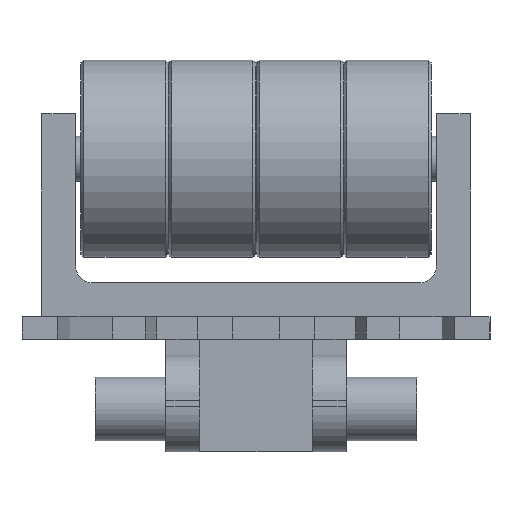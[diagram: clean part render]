
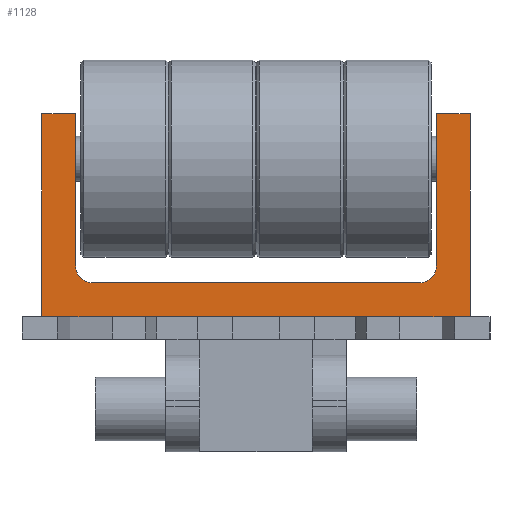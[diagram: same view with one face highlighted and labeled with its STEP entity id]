
A CAD part, front view. The second image highlights one B-rep face of the part: STEP entity #1128.
In plain terms, the highlighted planar face has unit normal (0, -1, 0).
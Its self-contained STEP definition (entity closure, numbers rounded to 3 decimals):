
#97 = DIRECTION ( 'NONE',  ( 0., 0., -1. ) ) ;
#175 = VECTOR ( 'NONE', #97, 1000. ) ;
#237 = CIRCLE ( 'NONE', #395, 3. ) ;
#260 = ORIENTED_EDGE ( 'NONE', *, *, #5171, .F. ) ;
#272 = VERTEX_POINT ( 'NONE', #3338 ) ;
#291 = VECTOR ( 'NONE', #699, 1000. ) ;
#300 = CARTESIAN_POINT ( 'NONE',  ( 221.662, 115.702, 32.1 ) ) ;
#395 = AXIS2_PLACEMENT_3D ( 'NONE', #3149, #4810, #664 ) ;
#406 = CARTESIAN_POINT ( 'NONE',  ( 226.3, 115.702, 32.1 ) ) ;
#409 = EDGE_CURVE ( 'NONE', #770, #688, #3407, .T. ) ;
#429 = LINE ( 'NONE', #3168, #291 ) ;
#444 = ORIENTED_EDGE ( 'NONE', *, *, #5121, .F. ) ;
#465 = EDGE_CURVE ( 'NONE', #951, #1958, #2955, .T. ) ;
#616 = VECTOR ( 'NONE', #4877, 1000. ) ;
#623 = VECTOR ( 'NONE', #3388, 1000. ) ;
#664 = DIRECTION ( 'NONE',  ( 0., 0., 1. ) ) ;
#688 = VERTEX_POINT ( 'NONE', #5198 ) ;
#699 = DIRECTION ( 'NONE',  ( 0., 0., -1. ) ) ;
#702 = DIRECTION ( 'NONE',  ( 0., 0., 1. ) ) ;
#718 = ORIENTED_EDGE ( 'NONE', *, *, #4504, .T. ) ;
#724 = VERTEX_POINT ( 'NONE', #2002 ) ;
#770 = VERTEX_POINT ( 'NONE', #3870 ) ;
#808 = DIRECTION ( 'NONE',  ( 1., 0., 0. ) ) ;
#813 = DIRECTION ( 'NONE',  ( 0., 0., 1. ) ) ;
#925 = LINE ( 'NONE', #3180, #3674 ) ;
#939 = CARTESIAN_POINT ( 'NONE',  ( 226.3, 115.702, 38.1 ) ) ;
#951 = VERTEX_POINT ( 'NONE', #1428 ) ;
#985 = CARTESIAN_POINT ( 'NONE',  ( 154.938, 115.702, 32.1 ) ) ;
#1047 = FACE_OUTER_BOUND ( 'NONE', #5176, .T. ) ;
#1128 = ADVANCED_FACE ( 'NONE', ( #1047 ), #1631, .F. ) ;
#1163 = DIRECTION ( 'NONE',  ( 1., 0., 0. ) ) ;
#1255 = DIRECTION ( 'NONE',  ( 0., 0., 1. ) ) ;
#1340 = EDGE_CURVE ( 'NONE', #272, #2758, #4354, .T. ) ;
#1413 = ORIENTED_EDGE ( 'NONE', *, *, #1340, .T. ) ;
#1428 = CARTESIAN_POINT ( 'NONE',  ( 220.3, 115.702, 68.1 ) ) ;
#1445 = VERTEX_POINT ( 'NONE', #3131 ) ;
#1563 = EDGE_CURVE ( 'NONE', #1958, #770, #4551, .T. ) ;
#1584 = VERTEX_POINT ( 'NONE', #300 ) ;
#1590 = DIRECTION ( 'NONE',  ( 0., 0., -1. ) ) ;
#1631 = PLANE ( 'NONE',  #2108 ) ;
#1787 = ORIENTED_EDGE ( 'NONE', *, *, #2967, .F. ) ;
#1803 = VECTOR ( 'NONE', #4117, 1000. ) ;
#1905 = CARTESIAN_POINT ( 'NONE',  ( 226.3, 115.702, 32.1 ) ) ;
#1920 = LINE ( 'NONE', #4538, #2900 ) ;
#1958 = VERTEX_POINT ( 'NONE', #3008 ) ;
#1995 = EDGE_CURVE ( 'NONE', #3274, #1584, #2737, .T. ) ;
#2000 = CARTESIAN_POINT ( 'NONE',  ( 226.3, 115.702, 68.1 ) ) ;
#2002 = CARTESIAN_POINT ( 'NONE',  ( 226.3, 115.702, 68.1 ) ) ;
#2054 = AXIS2_PLACEMENT_3D ( 'NONE', #4006, #3190, #702 ) ;
#2076 = VECTOR ( 'NONE', #3121, 1000. ) ;
#2108 = AXIS2_PLACEMENT_3D ( 'NONE', #4544, #3307, #813 ) ;
#2249 = VERTEX_POINT ( 'NONE', #4428 ) ;
#2374 = EDGE_CURVE ( 'NONE', #1584, #2249, #2926, .T. ) ;
#2445 = CARTESIAN_POINT ( 'NONE',  ( 226.3, 115.702, 32.1 ) ) ;
#2513 = CARTESIAN_POINT ( 'NONE',  ( 226.3, 115.702, 32.1 ) ) ;
#2560 = LINE ( 'NONE', #2000, #3469 ) ;
#2565 = ORIENTED_EDGE ( 'NONE', *, *, #465, .T. ) ;
#2620 = CARTESIAN_POINT ( 'NONE',  ( 156.3, 115.702, 68.1 ) ) ;
#2737 = LINE ( 'NONE', #1905, #2076 ) ;
#2745 = CARTESIAN_POINT ( 'NONE',  ( 150.3, 115.702, 68.1 ) ) ;
#2758 = VERTEX_POINT ( 'NONE', #4712 ) ;
#2845 = CARTESIAN_POINT ( 'NONE',  ( 226.3, 115.702, 68.1 ) ) ;
#2860 = VERTEX_POINT ( 'NONE', #985 ) ;
#2900 = VECTOR ( 'NONE', #808, 1000. ) ;
#2926 = LINE ( 'NONE', #406, #1803 ) ;
#2955 = LINE ( 'NONE', #4245, #175 ) ;
#2966 = VERTEX_POINT ( 'NONE', #2745 ) ;
#2967 = EDGE_CURVE ( 'NONE', #2966, #2758, #925, .T. ) ;
#3008 = CARTESIAN_POINT ( 'NONE',  ( 220.3, 115.702, 41.1 ) ) ;
#3056 = ORIENTED_EDGE ( 'NONE', *, *, #1563, .T. ) ;
#3102 = EDGE_CURVE ( 'NONE', #2860, #4834, #5268, .T. ) ;
#3121 = DIRECTION ( 'NONE',  ( 1., 0., 0. ) ) ;
#3129 = VECTOR ( 'NONE', #1255, 1000. ) ;
#3131 = CARTESIAN_POINT ( 'NONE',  ( 150.3, 115.702, 32.1 ) ) ;
#3149 = CARTESIAN_POINT ( 'NONE',  ( 159.3, 115.702, 41.1 ) ) ;
#3168 = CARTESIAN_POINT ( 'NONE',  ( 150.3, 115.702, 68.1 ) ) ;
#3180 = CARTESIAN_POINT ( 'NONE',  ( 226.3, 115.702, 68.1 ) ) ;
#3190 = DIRECTION ( 'NONE',  ( 0., 1., 0. ) ) ;
#3200 = DIRECTION ( 'NONE',  ( 1., 0., 0. ) ) ;
#3264 = ORIENTED_EDGE ( 'NONE', *, *, #3102, .T. ) ;
#3274 = VERTEX_POINT ( 'NONE', #4666 ) ;
#3307 = DIRECTION ( 'NONE',  ( 0., 1., 0. ) ) ;
#3338 = CARTESIAN_POINT ( 'NONE',  ( 156.3, 115.702, 41.1 ) ) ;
#3357 = ORIENTED_EDGE ( 'NONE', *, *, #1995, .T. ) ;
#3388 = DIRECTION ( 'NONE',  ( -1., 0., 0. ) ) ;
#3407 = LINE ( 'NONE', #939, #623 ) ;
#3469 = VECTOR ( 'NONE', #1163, 1000. ) ;
#3502 = ORIENTED_EDGE ( 'NONE', *, *, #2374, .T. ) ;
#3546 = VECTOR ( 'NONE', #3726, 1000. ) ;
#3617 = ORIENTED_EDGE ( 'NONE', *, *, #409, .T. ) ;
#3674 = VECTOR ( 'NONE', #3200, 1000. ) ;
#3726 = DIRECTION ( 'NONE',  ( 1., 0., 0. ) ) ;
#3870 = CARTESIAN_POINT ( 'NONE',  ( 217.3, 115.702, 38.1 ) ) ;
#4006 = CARTESIAN_POINT ( 'NONE',  ( 217.3, 115.702, 41.1 ) ) ;
#4071 = LINE ( 'NONE', #2513, #3546 ) ;
#4117 = DIRECTION ( 'NONE',  ( 1., 0., 0. ) ) ;
#4245 = CARTESIAN_POINT ( 'NONE',  ( 220.3, 115.702, 68.1 ) ) ;
#4354 = LINE ( 'NONE', #2620, #3129 ) ;
#4407 = ORIENTED_EDGE ( 'NONE', *, *, #4927, .T. ) ;
#4428 = CARTESIAN_POINT ( 'NONE',  ( 226.3, 115.702, 32.1 ) ) ;
#4443 = VECTOR ( 'NONE', #1590, 1000. ) ;
#4504 = EDGE_CURVE ( 'NONE', #1445, #2860, #4071, .T. ) ;
#4526 = ORIENTED_EDGE ( 'NONE', *, *, #5032, .T. ) ;
#4538 = CARTESIAN_POINT ( 'NONE',  ( 226.3, 115.702, 32.1 ) ) ;
#4544 = CARTESIAN_POINT ( 'NONE',  ( 226.3, 115.702, 68.1 ) ) ;
#4551 = CIRCLE ( 'NONE', #2054, 3. ) ;
#4595 = EDGE_CURVE ( 'NONE', #4834, #3274, #1920, .T. ) ;
#4666 = CARTESIAN_POINT ( 'NONE',  ( 214.316, 115.702, 32.1 ) ) ;
#4712 = CARTESIAN_POINT ( 'NONE',  ( 156.3, 115.702, 68.1 ) ) ;
#4726 = CARTESIAN_POINT ( 'NONE',  ( 162.284, 115.702, 32.1 ) ) ;
#4759 = LINE ( 'NONE', #2845, #4443 ) ;
#4810 = DIRECTION ( 'NONE',  ( 0., 1., 0. ) ) ;
#4834 = VERTEX_POINT ( 'NONE', #4726 ) ;
#4877 = DIRECTION ( 'NONE',  ( 1., 0., 0. ) ) ;
#4921 = ORIENTED_EDGE ( 'NONE', *, *, #4595, .T. ) ;
#4927 = EDGE_CURVE ( 'NONE', #2966, #1445, #429, .T. ) ;
#5032 = EDGE_CURVE ( 'NONE', #688, #272, #237, .T. ) ;
#5121 = EDGE_CURVE ( 'NONE', #951, #724, #2560, .T. ) ;
#5171 = EDGE_CURVE ( 'NONE', #724, #2249, #4759, .T. ) ;
#5176 = EDGE_LOOP ( 'NONE', ( #2565, #3056, #3617, #4526, #1413, #1787, #4407, #718, #3264, #4921, #3357, #3502, #260, #444 ) ) ;
#5198 = CARTESIAN_POINT ( 'NONE',  ( 159.3, 115.702, 38.1 ) ) ;
#5268 = LINE ( 'NONE', #2445, #616 ) ;
